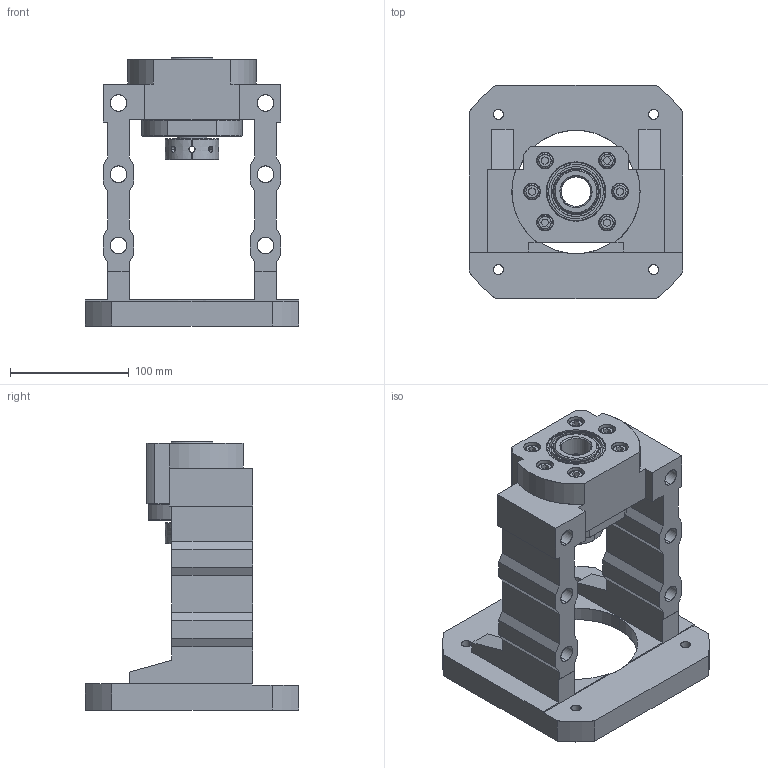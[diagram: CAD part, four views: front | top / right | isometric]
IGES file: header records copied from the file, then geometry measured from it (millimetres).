
Start section: SolidWorks IGES file using analytic representation for surfaces
Bounding box: 180 x 180 x 226 mm (x, y, z)
Surface area: 212897.6 mm2 (no closed solid volume)
Topology: 0 solids, 0 shells, 337 faces, 5970 edges, 5962 vertices
Faces by surface type: bspline 169, revolution 168
